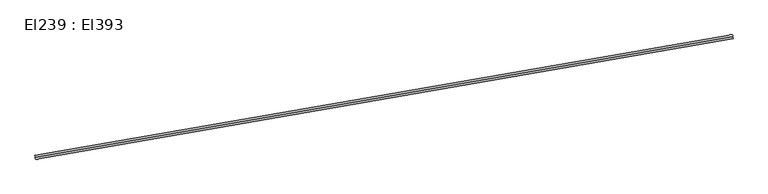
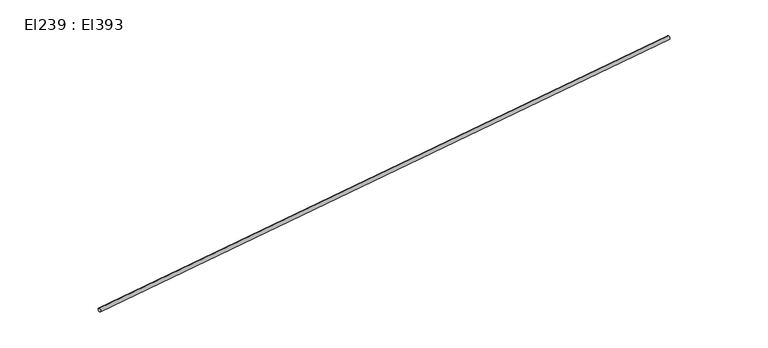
"""IFC4 building model written with IfcOpenShell, lengths in millimetres: cable carrier segment geometry, El239 : El393."""

from ifc_helpers import new_model, si_unit, point, frame, frame_2d, origin, place, context, project, spatial, circle_curve, trimmed, segment, composite_curve, outline, extrude, source, transform, mapped, element, save


def el239_el393_78304476(model_context):
    return source(origin(), model_context, "Body", "SweptSolid", [
        extrude(outline(composite_curve([segment(trimmed(circle_curve(frame_2d((0.0, -9.5)), 9.5), [point((0.0, -19.0))], [point((0.0, 0.0))], False, "CARTESIAN"), True, "CONTINUOUS"), segment(trimmed(circle_curve(frame_2d((0.0, -9.5)), 9.5), [point((0.0, 0.0))], [point((0.0, -19.0))], False, "CARTESIAN"), True, "CONTINUOUS")], self_intersect=False)), frame((6498.7544223, -7796.4176889, 1509.5), z_axis=(0.9853180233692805, 0.17072900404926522, 0.0), x_axis=(-0.17072900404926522, 0.9853180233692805, 0.0)), (0.0, 0.0, 1.0), 3479.08),
    ])


if __name__ == "__main__":
    model = new_model("IFC4")
    model_context = context("Model", 3, world=origin())
    ifc_project = project(units=[si_unit("LENGTHUNIT", "METRE", prefix="MILLI")], contexts=[model_context])
    site = spatial("IfcSite", under=ifc_project)
    building = spatial("IfcBuilding", under=site)
    placement = place(None, origin())
    el239_el393_shape = el239_el393_78304476(model_context)
    element("IfcCableCarrierSegment", 1, ObjectType="El239 : El393", at=placement, inside=building, context=model_context, shape_type="MappedRepresentation", body=[
        mapped(el239_el393_shape, transform((0.0, 0.0, 0.0), x_axis=(1.0, 0.0, 0.0), y_axis=(0.0, 1.0, 0.0), z_axis=(0.0, 0.0, 1.0))),
    ])
    save(model, "model.ifc")
